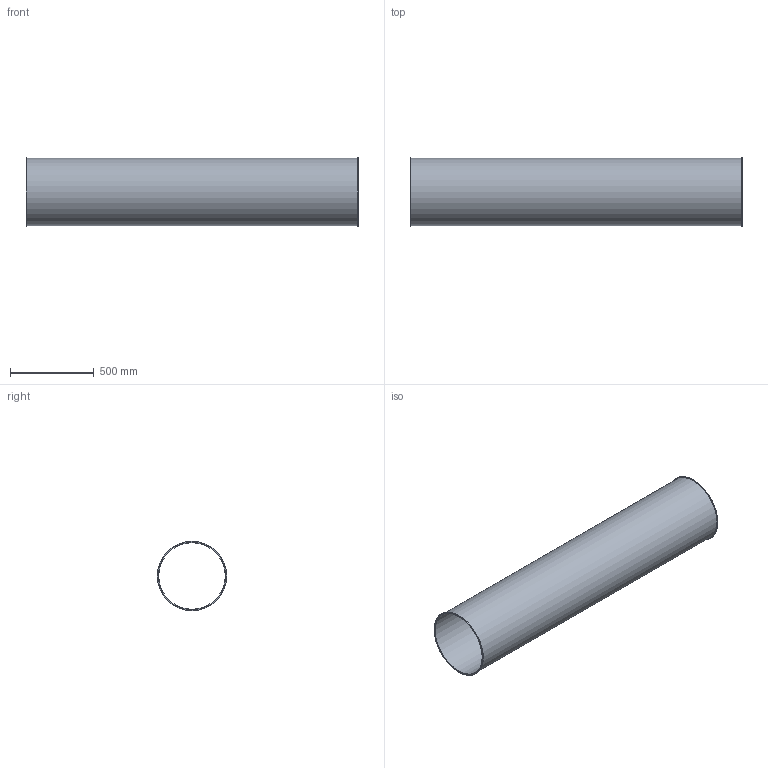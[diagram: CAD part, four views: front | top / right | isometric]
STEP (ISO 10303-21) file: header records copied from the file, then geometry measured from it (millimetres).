
FILE_DESCRIPTION((''),'2;1');
FILE_NAME('U:\Wolfgang\Marcel-3D\fertig\Kapitel 1\4021001.stp','2010-05-31T12:33:33',('TK2'),(''),'Autodesk Inventor 2010','Autodesk Inventor 2010','');
FILE_SCHEMA(('AUTOMOTIVE_DESIGN { 1 0 10303 214 1 1 1 1 }'));
Length unit declared in the file: millimetre
Products named in the file (1): 4021001
Bounding box: 1986 x 414 x 414 mm (x, y, z)
Volume: 5022124.9 mm3; surface area: 5027302.2 mm2
Topology: 1 solids, 1 shells, 8 faces, 12 edges, 8 vertices
Faces by surface type: cylinder 4, plane 4
Full cylindrical faces by diameter (mm): 398 x1, 402 x1, 414 x2
Entity records: 194 total; most frequent: DIRECTION 34, CARTESIAN_POINT 25, AXIS2_PLACEMENT_3D 17, ORIENTED_EDGE 16, EDGE_LOOP 16, VERTEX_POINT 8, CIRCLE 8, EDGE_CURVE 8
